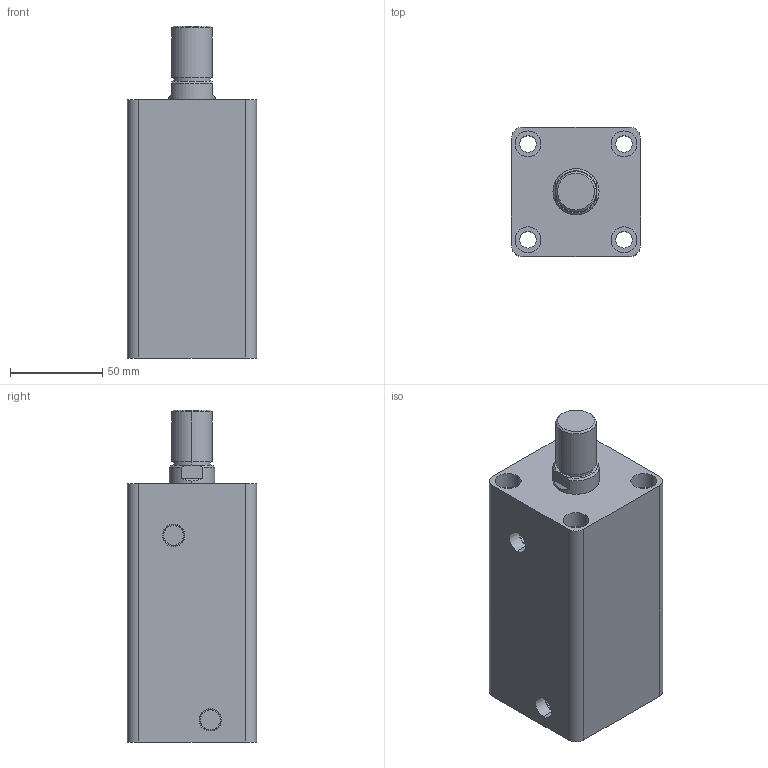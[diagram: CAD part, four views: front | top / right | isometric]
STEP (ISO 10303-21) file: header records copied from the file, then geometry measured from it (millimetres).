
FILE_DESCRIPTION (( 'STEP AP203' ), '1' );
FILE_NAME ('HTB-SD40-85W.STEP', '2019-10-07T06:57:18', ( '微软用户' ), ( '微软中国' ), 'SwSTEP 2.0', 'SolidWorks 2012', '' );
FILE_SCHEMA (( 'CONFIG_CONTROL_DESIGN' ));
Length unit declared in the file: millimetre
Products named in the file (3): HTB-SD40-85掛极; HTB-SD40-85W活塞杆; HTB-SD40-85W
Assembly tree (2 placements, depth 2):
  HTB-SD40-85W
    HTB-SD40-85掛极
    HTB-SD40-85W活塞杆
Bounding box: 70 x 70 x 180 mm (x, y, z)
Volume: 588437.3 mm3; surface area: 97622.9 mm2
Topology: 2 solids, 2 shells, 85 faces, 186 edges, 122 vertices
Faces by surface type: cylinder 44, plane 29, cone 8, torus 4
Entity records: 2709 total; most frequent: DIRECTION 466, CARTESIAN_POINT 426, ORIENTED_EDGE 372, AXIS2_PLACEMENT_3D 198, EDGE_CURVE 186, VERTEX_POINT 122, EDGE_LOOP 110, CIRCLE 108
